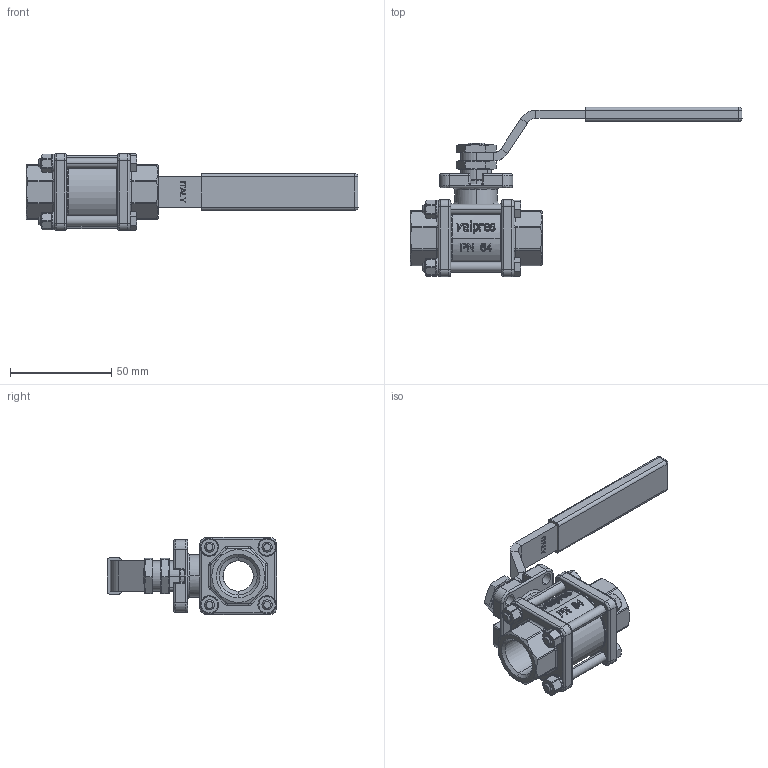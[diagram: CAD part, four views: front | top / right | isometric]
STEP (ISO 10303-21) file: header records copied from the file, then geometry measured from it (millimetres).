
FILE_DESCRIPTION (( 'STEP AP203' ), '1' );
FILE_NAME ('71000004.STEP', '2008-10-15T08:09:32', ( '.' ), ( '.' ), 'SwSTEP 2.0', 'SolidWorks 2007', '' );
FILE_SCHEMA (( 'CONFIG_CONTROL_DESIGN' ));
Products named in the file (1): 71000004
Bounding box: 163.6 x 83.55 x 38 mm (x, y, z)
Volume: 74721.1 mm3; surface area: 33895.7 mm2
Topology: 2 solids, 2 shells, 1219 faces, 3015 edges, 1858 vertices
Faces by surface type: plane 380, cylinder 336, bspline 301, cone 199, torus 3
Entity records: 68809 total; most frequent: CARTESIAN_POINT 42054, ORIENTED_EDGE 6012, DIRECTION 4931, EDGE_CURVE 3006, VERTEX_POINT 1858, AXIS2_PLACEMENT_3D 1853, EDGE_LOOP 1320, VECTOR 1225
